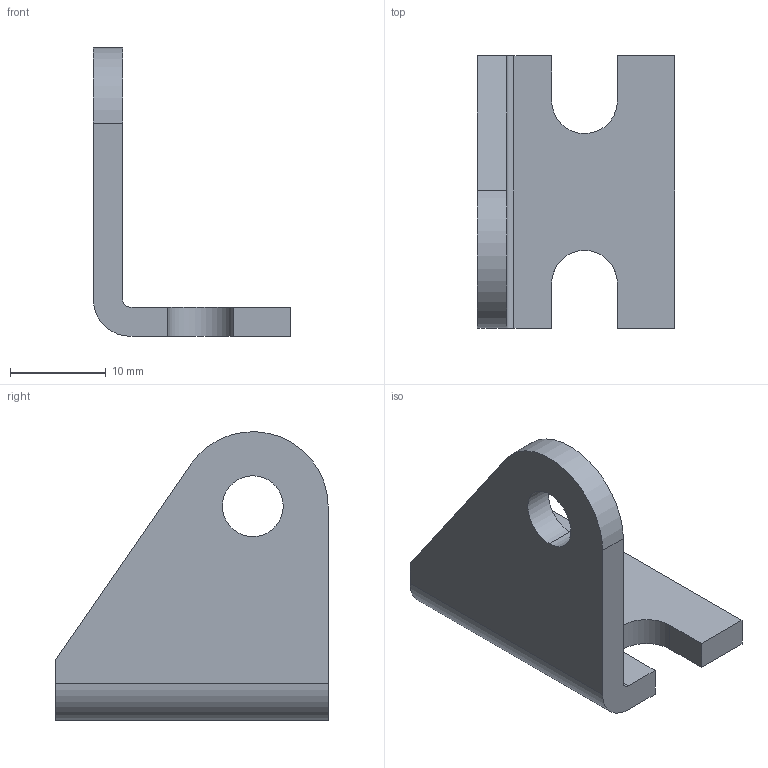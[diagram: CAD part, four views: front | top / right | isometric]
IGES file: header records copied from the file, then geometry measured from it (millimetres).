
Global section: file name: C:\Documents and Settings\Administrator\Desktop\Transfer Temp\pivotbracket0750left.igs; native system: AutoDesk Inventor R2.0 ; preprocessor: AutoDesk Inventor Iges Exporter R2.0; author: No Author specified; organization: No Organization specified; date: 20020121.195801; units: inch
Bounding box: 20.57 x 28.45 x 30.12 mm (x, y, z)
Surface area: 2520.1 mm2 (no closed solid volume)
Topology: 0 solids, 0 shells, 22 faces, 120 edges, 120 vertices
Faces by surface type: bspline 17, revolution 5
